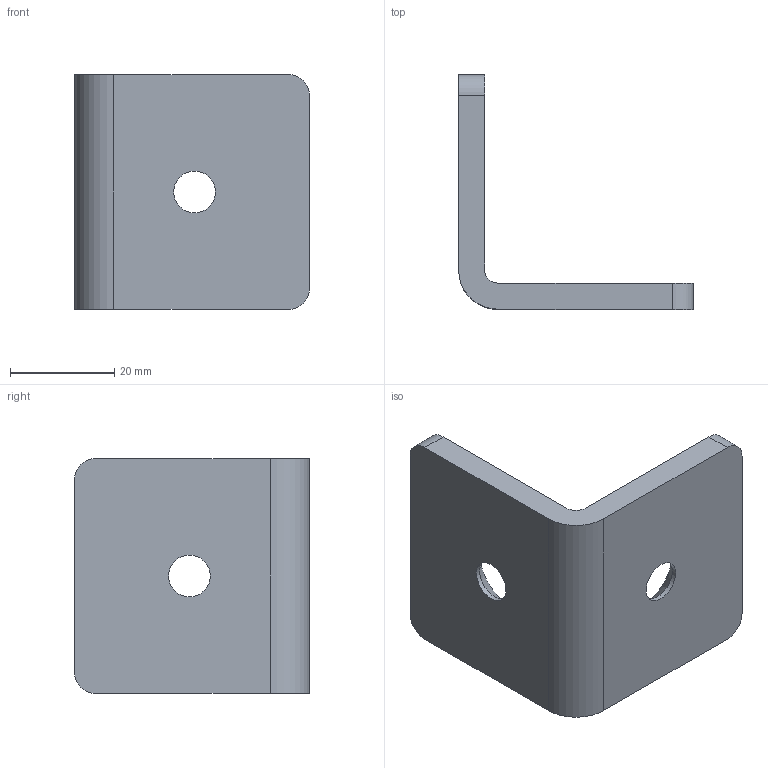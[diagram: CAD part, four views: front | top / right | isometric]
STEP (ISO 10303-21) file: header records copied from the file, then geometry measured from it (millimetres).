
FILE_DESCRIPTION( ( 'STEP AP203' ), '1' );
FILE_NAME( 'C:/Temp/Ganter_Step_05_03_2020/data/3_7/gn_967/gn_967_1/gn_967_1_l/Angle piece GN 967-45-45-L-1-SW.stp', '2020-03-12T14:48:22', ( 'License CC BY-ND 4.0' ), ( 'CADENAS' ), ' ', 'PARTsolutions', ' ' );
FILE_SCHEMA( ( 'CONFIG_CONTROL_DESIGN' ) );
Length unit declared in the file: millimetre
Products named in the file (1): _Angle piece GN 967-45-45-L-1-SW
Bounding box: 45 x 45 x 45 mm (x, y, z)
Volume: 17504 mm3; surface area: 8646.9 mm2
Topology: 1 solids, 1 shells, 18 faces, 46 edges, 30 vertices
Faces by surface type: cylinder 8, plane 8, cone 2
Full cylindrical faces by diameter (mm): 8 x2
Entity records: 584 total; most frequent: DIRECTION 98, CARTESIAN_POINT 91, ORIENTED_EDGE 84, EDGE_CURVE 42, AXIS2_PLACEMENT_3D 37, VERTEX_POINT 30, EDGE_LOOP 26, LINE 24
